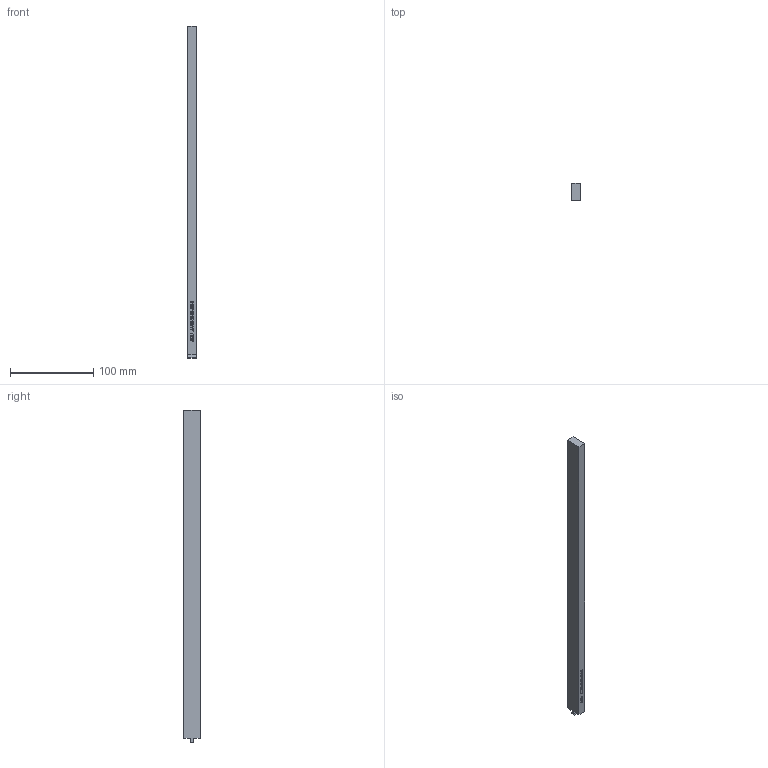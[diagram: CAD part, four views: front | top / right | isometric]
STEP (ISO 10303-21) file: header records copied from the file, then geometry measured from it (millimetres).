
FILE_DESCRIPTION (( 'STEP AP203' ), '1' );
FILE_NAME ('ALBD-10-20-400-5.STEP', '2021-01-11T20:31:14', ( '' ), ( '' ), 'SwSTEP 2.0', 'SolidWorks 2020', '' );
FILE_SCHEMA (( 'CONFIG_CONTROL_DESIGN' ));
Length unit declared in the file: millimetre
Products named in the file (1): ALBD-10-20-400-5
Bounding box: 10 x 20 x 400 mm (x, y, z)
Volume: 79215.1 mm3; surface area: 24290.9 mm2
Topology: 1 solids, 1 shells, 180 faces, 447 edges, 298 vertices
Faces by surface type: plane 138, bspline 42
Entity records: 6744 total; most frequent: CARTESIAN_POINT 2656, ORIENTED_EDGE 894, DIRECTION 641, EDGE_CURVE 447, LINE 363, VECTOR 363, VERTEX_POINT 298, EDGE_LOOP 209
